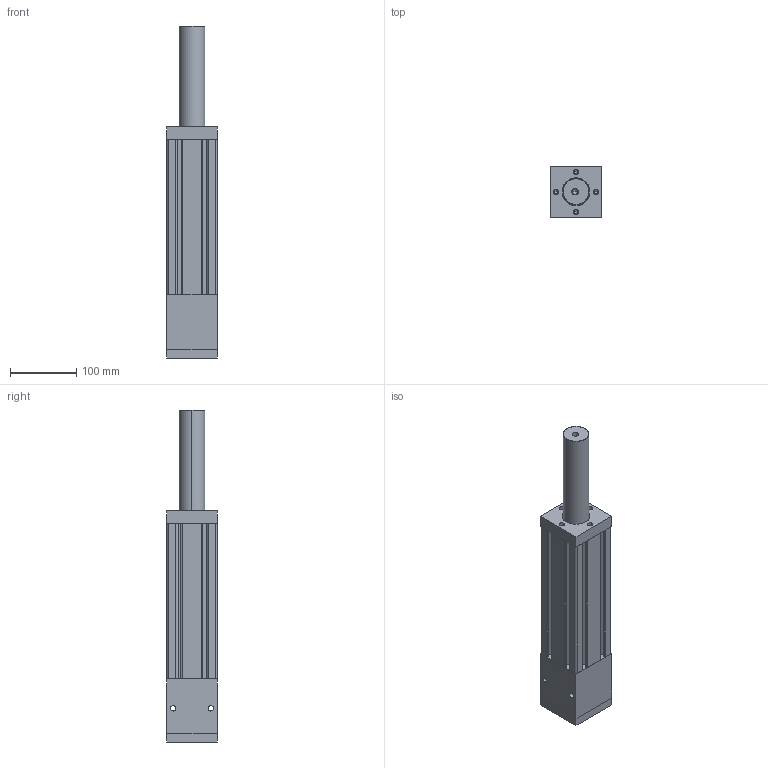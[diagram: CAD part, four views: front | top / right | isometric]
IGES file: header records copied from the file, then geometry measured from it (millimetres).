
Start section: SolidWorks IGES file using analytic representation for surfaces
Global section: file name: C:\Users\render\Documents\CAD Files\Integrated-Actuators\SS-Series\SS-6\SS6.IGS; native system: SolidWorks 2009; preprocessor: SolidWorks 2009; author: render; date: 100602.145819; units: millimetre
Bounding box: 76.2 x 76.2 x 501.65 mm (x, y, z)
Surface area: 300963.3 mm2 (no closed solid volume)
Topology: 0 solids, 0 shells, 309 faces, 5024 edges, 5006 vertices
Faces by surface type: revolution 194, bspline 115
